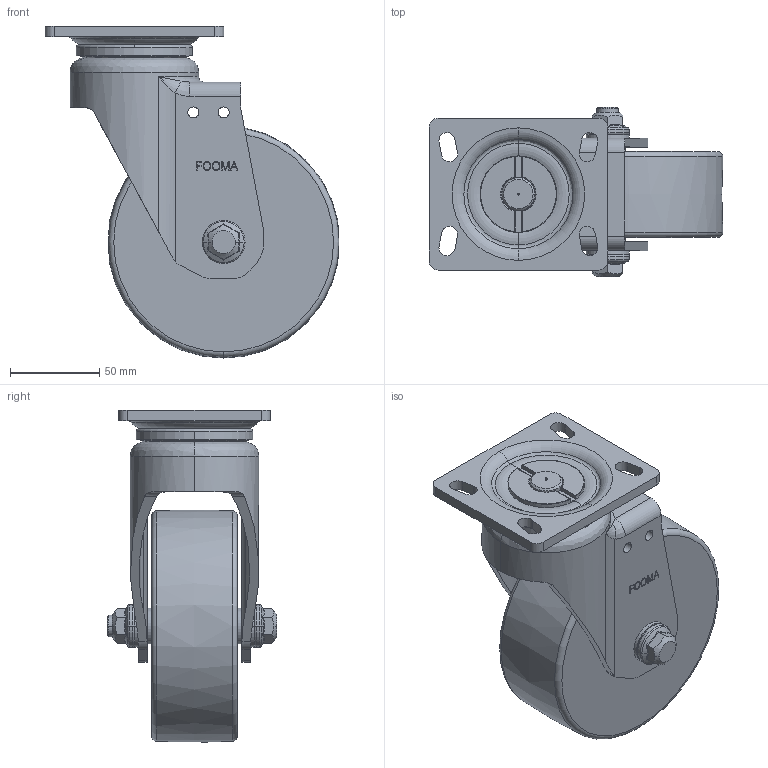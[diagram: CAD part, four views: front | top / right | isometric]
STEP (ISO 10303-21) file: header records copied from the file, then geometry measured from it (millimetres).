
FILE_DESCRIPTION((''),'2;1');
FILE_NAME('PH-130-ASF-MCD.stp','2013-04-30T13:51:32',(''),(''),'Mechanical Desktop 2009','Mechanical Desktop 2009',', , ');
FILE_SCHEMA(('CONFIG_CONTROL_DESIGN'));
Length unit declared in the file: millimetre
Products named in the file (2): PH-130-ASF-MCD; PLATE
Assembly tree (1 placements, depth 2):
  PH-130-ASF-MCD
    PLATE
Bounding box: 164.55 x 94.8 x 185.95 mm (x, y, z)
Volume: 854200.3 mm3; surface area: 126033.7 mm2
Topology: 7 solids, 7 shells, 522 faces, 1359 edges, 883 vertices
Faces by surface type: bspline 209, plane 148, cylinder 100, torus 43, cone 22
Entity records: 19825 total; most frequent: CARTESIAN_POINT 8014, ORIENTED_EDGE 2710, DIRECTION 1972, EDGE_CURVE 1355, VERTEX_POINT 883, AXIS2_PLACEMENT_3D 722, EDGE_LOOP 586, VECTOR 528
